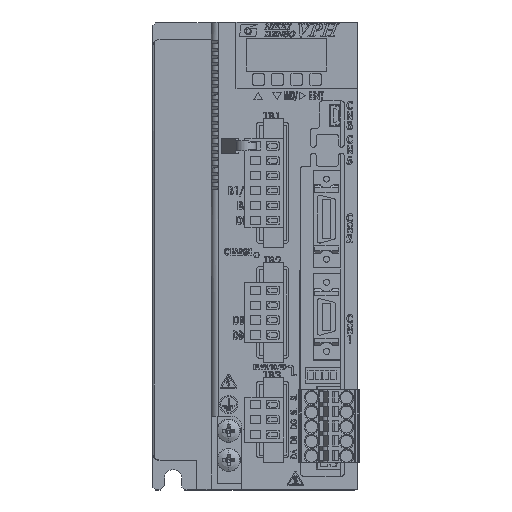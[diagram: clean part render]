
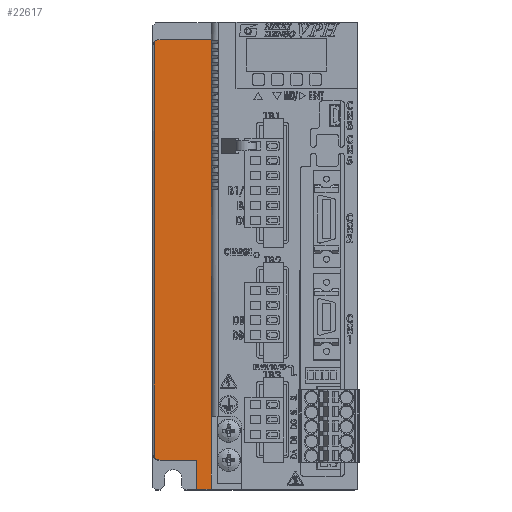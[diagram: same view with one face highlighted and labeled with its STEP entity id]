
A CAD part, top view. The second image highlights one B-rep face of the part: STEP entity #22617.
In plain terms, the highlighted planar face has unit normal (0, 0, 1).
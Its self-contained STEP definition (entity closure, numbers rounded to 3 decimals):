
#2225 = CARTESIAN_POINT ( 'NONE',  ( -67.5, -150., 151.5 ) ) ;
#3829 = VERTEX_POINT ( 'NONE', #64185 ) ;
#5518 = ORIENTED_EDGE ( 'NONE', *, *, #105463, .F. ) ;
#10323 = VERTEX_POINT ( 'NONE', #2225 ) ;
#12417 = PLANE ( 'NONE',  #91773 ) ;
#14818 = DIRECTION ( 'NONE',  ( 0., 1., 0. ) ) ;
#18567 = CARTESIAN_POINT ( 'NONE',  ( -69.5, -149., 151.5 ) ) ;
#18722 = CARTESIAN_POINT ( 'NONE',  ( -50., -6., 151.5 ) ) ;
#22617 = ADVANCED_FACE ( 'NONE', ( #39536 ), #12417, .F. ) ;
#22837 = DIRECTION ( 'NONE',  ( -1., 0., 0. ) ) ;
#26034 = ORIENTED_EDGE ( 'NONE', *, *, #71537, .F. ) ;
#26981 = CARTESIAN_POINT ( 'NONE',  ( -69.5, -160., 151.5 ) ) ;
#29051 = CIRCLE ( 'NONE', #34854, 2.5 ) ;
#30866 = LINE ( 'NONE', #85997, #141789 ) ;
#30954 = LINE ( 'NONE', #32732, #79114 ) ;
#32522 = LINE ( 'NONE', #87648, #139684 ) ;
#32649 = DIRECTION ( 'NONE',  ( -1., 0., 0. ) ) ;
#32732 = CARTESIAN_POINT ( 'NONE',  ( -55., -150., 151.5 ) ) ;
#33412 = AXIS2_PLACEMENT_3D ( 'NONE', #46652, #156939, #92439 ) ;
#33764 = CARTESIAN_POINT ( 'NONE',  ( -69.5, -7., 151.5 ) ) ;
#34854 = AXIS2_PLACEMENT_3D ( 'NONE', #146710, #104181, #22837 ) ;
#39536 = FACE_OUTER_BOUND ( 'NONE', #78350, .T. ) ;
#40122 = CARTESIAN_POINT ( 'NONE',  ( -55., -150., 151.5 ) ) ;
#43323 = VERTEX_POINT ( 'NONE', #18722 ) ;
#46652 = CARTESIAN_POINT ( 'NONE',  ( -67.5, -147.5, 151.5 ) ) ;
#47039 = EDGE_CURVE ( 'NONE', #81008, #43323, #150925, .T. ) ;
#47815 = ORIENTED_EDGE ( 'NONE', *, *, #100472, .T. ) ;
#57293 = CARTESIAN_POINT ( 'NONE',  ( -55., -160., 151.5 ) ) ;
#59958 = EDGE_CURVE ( 'NONE', #68510, #3829, #30866, .T. ) ;
#64185 = CARTESIAN_POINT ( 'NONE',  ( -55., -160., 151.5 ) ) ;
#64982 = LINE ( 'NONE', #26981, #158402 ) ;
#65836 = VERTEX_POINT ( 'NONE', #18567 ) ;
#67741 = CARTESIAN_POINT ( 'NONE',  ( -50., -6., 151.5 ) ) ;
#68510 = VERTEX_POINT ( 'NONE', #162596 ) ;
#71537 = EDGE_CURVE ( 'NONE', #117934, #10323, #30954, .T. ) ;
#74489 = ORIENTED_EDGE ( 'NONE', *, *, #47039, .F. ) ;
#78350 = EDGE_LOOP ( 'NONE', ( #74489, #91347, #79411, #5518, #26034, #119774, #97944, #47815 ) ) ;
#79114 = VECTOR ( 'NONE', #114125, 1000. ) ;
#79411 = ORIENTED_EDGE ( 'NONE', *, *, #163471, .F. ) ;
#81008 = VERTEX_POINT ( 'NONE', #104340 ) ;
#83970 = DIRECTION ( 'NONE',  ( 1., 0., 0. ) ) ;
#85997 = CARTESIAN_POINT ( 'NONE',  ( -50., -160., 151.5 ) ) ;
#87648 = CARTESIAN_POINT ( 'NONE',  ( -50., -160., 151.5 ) ) ;
#91347 = ORIENTED_EDGE ( 'NONE', *, *, #110393, .F. ) ;
#91773 = AXIS2_PLACEMENT_3D ( 'NONE', #91952, #119111, #92860 ) ;
#91952 = CARTESIAN_POINT ( 'NONE',  ( -50., -160., 151.5 ) ) ;
#92439 = DIRECTION ( 'NONE',  ( -1., 0., 0. ) ) ;
#92860 = DIRECTION ( 'NONE',  ( 0., -1., 0. ) ) ;
#94759 = DIRECTION ( 'NONE',  ( 0., 1., 0. ) ) ;
#97944 = ORIENTED_EDGE ( 'NONE', *, *, #59958, .F. ) ;
#100472 = EDGE_CURVE ( 'NONE', #68510, #43323, #32522, .T. ) ;
#104181 = DIRECTION ( 'NONE',  ( 0., 0., -1. ) ) ;
#104340 = CARTESIAN_POINT ( 'NONE',  ( -67.5, -6., 151.5 ) ) ;
#105463 = EDGE_CURVE ( 'NONE', #10323, #65836, #160412, .T. ) ;
#110393 = EDGE_CURVE ( 'NONE', #124728, #81008, #29051, .T. ) ;
#111514 = LINE ( 'NONE', #57293, #123090 ) ;
#114125 = DIRECTION ( 'NONE',  ( -1., 0., 0. ) ) ;
#117934 = VERTEX_POINT ( 'NONE', #40122 ) ;
#119111 = DIRECTION ( 'NONE',  ( 0., 0., -1. ) ) ;
#119774 = ORIENTED_EDGE ( 'NONE', *, *, #160352, .F. ) ;
#123090 = VECTOR ( 'NONE', #14818, 1000. ) ;
#124728 = VERTEX_POINT ( 'NONE', #33764 ) ;
#137355 = VECTOR ( 'NONE', #83970, 1000. ) ;
#139684 = VECTOR ( 'NONE', #169066, 1000. ) ;
#141789 = VECTOR ( 'NONE', #32649, 1000. ) ;
#146710 = CARTESIAN_POINT ( 'NONE',  ( -67.5, -8.5, 151.5 ) ) ;
#150925 = LINE ( 'NONE', #67741, #137355 ) ;
#156939 = DIRECTION ( 'NONE',  ( 0., 0., -1. ) ) ;
#158402 = VECTOR ( 'NONE', #94759, 1000. ) ;
#160352 = EDGE_CURVE ( 'NONE', #3829, #117934, #111514, .T. ) ;
#160412 = CIRCLE ( 'NONE', #33412, 2.5 ) ;
#162596 = CARTESIAN_POINT ( 'NONE',  ( -50., -160., 151.5 ) ) ;
#163471 = EDGE_CURVE ( 'NONE', #65836, #124728, #64982, .T. ) ;
#169066 = DIRECTION ( 'NONE',  ( 0., 1., 0. ) ) ;
